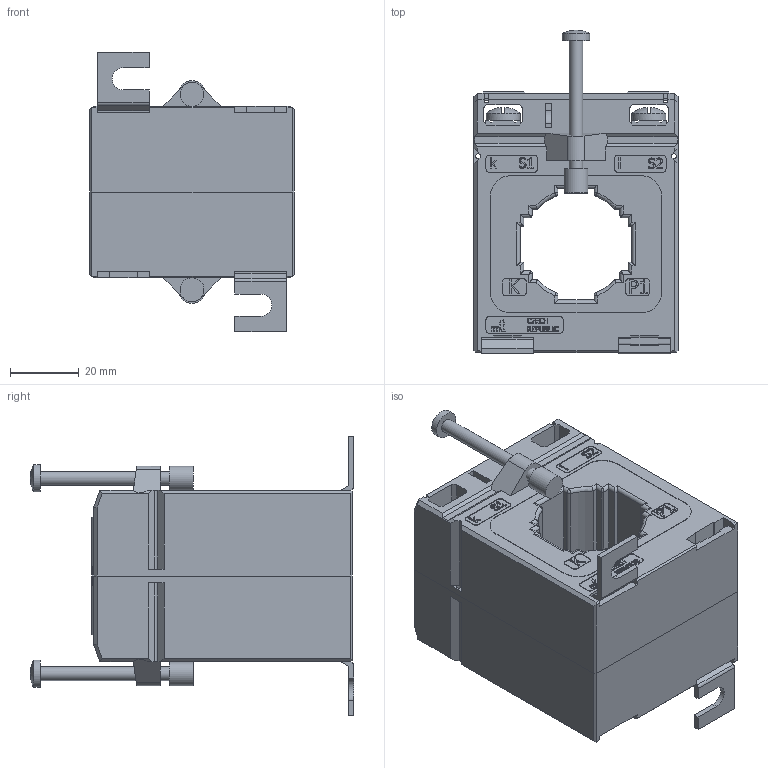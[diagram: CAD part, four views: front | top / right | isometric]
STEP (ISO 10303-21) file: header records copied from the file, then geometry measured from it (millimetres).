
FILE_DESCRIPTION(/* description */ (''),/* implementation_level */ '2;1');
FILE_NAME(/* name */ 'CLB 32.65.step',/* time_stamp */ '2024-10-11T20:58:37+02:00',/* author */ ('peter'),/* organization */ (''),/* preprocessor_version */ 'ST-DEVELOPER v20',/* originating_system */ 'Autodesk Inventor 2025',/* authorisation */ '');
FILE_SCHEMA (('AUTOMOTIVE_DESIGN { 1 0 10303 214 3 1 1 }'));
Length unit declared in the file: millimetre
Products named in the file (10): Current transformer CLB 32.65; Front plastic case CLB 32.65; Back plastic case CLB 32.65; Tape label CLB 32.65; Secondary terminal 28 CLB; Secondary terminal cover 37 CLB; Metal mounting foot CLB; Screw M5x8; Screw 4x45; Insulating cap
Assembly tree (17 placements, depth 2):
  Current transformer CLB 32.65
    Front plastic case CLB 32.65
    Back plastic case CLB 32.65
    Tape label CLB 32.65
    Secondary terminal 28 CLB  x2
    Secondary terminal cover 37 CLB  x2
    Metal mounting foot CLB  x2
    Screw M5x8  x4
    Screw 4x45  x2
    Insulating cap  x2
Bounding box: 59.5 x 94.34 x 81.5 mm (x, y, z)
Volume: 174506.2 mm3; surface area: 50994.4 mm2
Topology: 17 solids, 17 shells, 1796 faces, 4907 edges, 3220 vertices
Faces by surface type: plane 1116, bspline 408, cylinder 224, sphere 18, torus 16, cone 14
Full cylindrical faces by diameter (mm): 1.5 x4, 2.5 x2, 2.95 x2, 3 x4, 3.5 x2, 4 x4, 4.134 x4, 5 x4, 7 x2, 8 x2, 10 x4
Entity records: 53695 total; most frequent: CARTESIAN_POINT 14595, ORIENTED_EDGE 8856, DIRECTION 6404, EDGE_CURVE 4428, LINE 3204, VECTOR 3204, VERTEX_POINT 2909, EDGE_LOOP 1729
